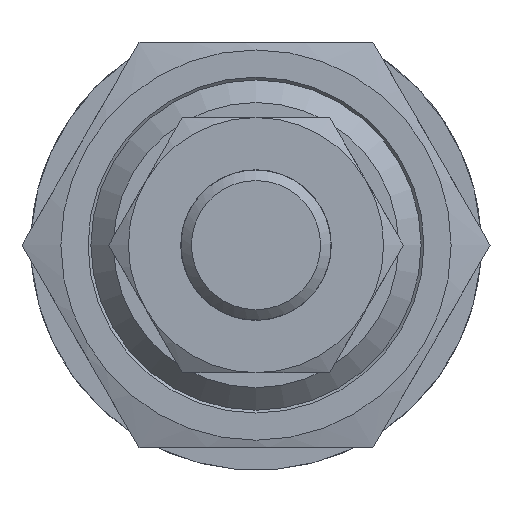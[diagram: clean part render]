
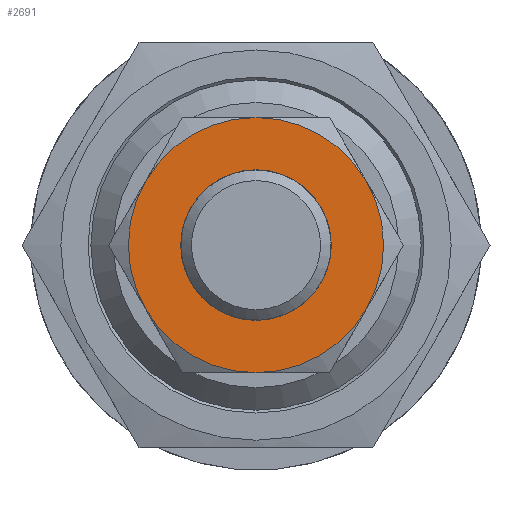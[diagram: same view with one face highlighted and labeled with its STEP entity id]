
A CAD part, front view. The second image highlights one B-rep face of the part: STEP entity #2691.
In plain terms, the highlighted planar face has unit normal (0, -1, 0) as drawn and (1, 0, 0) by its records, which use the part's own axes.
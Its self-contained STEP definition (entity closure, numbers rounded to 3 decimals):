
#454=PLANE('',#4399);
#1058=ORIENTED_EDGE('',*,*,#1420,.T.);
#1059=ORIENTED_EDGE('',*,*,#1418,.T.);
#1060=ORIENTED_EDGE('',*,*,#1415,.T.);
#1061=ORIENTED_EDGE('',*,*,#1414,.T.);
#1062=ORIENTED_EDGE('',*,*,#1416,.T.);
#1063=ORIENTED_EDGE('',*,*,#1417,.T.);
#1064=ORIENTED_EDGE('',*,*,#1419,.T.);
#1414=EDGE_CURVE('',#1665,#1672,#1839,.T.);
#1415=EDGE_CURVE('',#1662,#1665,#1840,.T.);
#1416=EDGE_CURVE('',#1672,#1670,#1841,.T.);
#1417=EDGE_CURVE('',#1670,#1667,#1842,.T.);
#1418=EDGE_CURVE('',#1657,#1662,#1843,.T.);
#1419=EDGE_CURVE('',#1667,#1657,#1844,.T.);
#1420=EDGE_CURVE('',#1673,#1673,#1845,.F.);
#1657=VERTEX_POINT('',#6170);
#1662=VERTEX_POINT('',#6190);
#1665=VERTEX_POINT('',#6207);
#1667=VERTEX_POINT('',#6225);
#1670=VERTEX_POINT('',#6242);
#1672=VERTEX_POINT('',#6258);
#1673=VERTEX_POINT('',#6282);
#1839=CIRCLE('',#4382,8.5);
#1840=CIRCLE('',#4384,8.5);
#1841=CIRCLE('',#4386,8.5);
#1842=CIRCLE('',#4388,8.5);
#1843=CIRCLE('',#4390,8.5);
#1844=CIRCLE('',#4392,8.5);
#1845=CIRCLE('',#4400,5.016);
#2127=EDGE_LOOP('',(#1058));
#2128=EDGE_LOOP('',(#1059,#1060,#1061,#1062,#1063,#1064));
#2430=FACE_BOUND('',#2127,.T.);
#2431=FACE_BOUND('',#2128,.T.);
#2691=ADVANCED_FACE('',(#2430,#2431),#454,.T.);
#4382=AXIS2_PLACEMENT_3D('',#6263,#5146,#5147);
#4384=AXIS2_PLACEMENT_3D('',#6265,#5150,#5151);
#4386=AXIS2_PLACEMENT_3D('',#6267,#5154,#5155);
#4388=AXIS2_PLACEMENT_3D('',#6269,#5158,#5159);
#4390=AXIS2_PLACEMENT_3D('',#6271,#5162,#5163);
#4392=AXIS2_PLACEMENT_3D('',#6273,#5166,#5167);
#4399=AXIS2_PLACEMENT_3D('',#6280,#5180,#5181);
#4400=AXIS2_PLACEMENT_3D('',#6281,#5182,#5183);
#5146=DIRECTION('',(1.,0.,0.));
#5147=DIRECTION('',(0.,1.,0.));
#5150=DIRECTION('',(1.,0.,0.));
#5151=DIRECTION('',(0.,1.,0.));
#5154=DIRECTION('',(1.,0.,0.));
#5155=DIRECTION('',(0.,1.,0.));
#5158=DIRECTION('',(1.,0.,0.));
#5159=DIRECTION('',(0.,1.,0.));
#5162=DIRECTION('',(1.,0.,0.));
#5163=DIRECTION('',(0.,1.,0.));
#5166=DIRECTION('',(1.,0.,0.));
#5167=DIRECTION('',(0.,1.,0.));
#5180=DIRECTION('',(1.,0.,0.));
#5181=DIRECTION('',(0.,0.,-1.));
#5182=DIRECTION('',(1.,0.,0.));
#5183=DIRECTION('',(0.,0.,-1.));
#6170=CARTESIAN_POINT('',(6.,-7.361,-4.25));
#6190=CARTESIAN_POINT('',(6.,0.,-8.5));
#6207=CARTESIAN_POINT('',(6.,7.361,-4.25));
#6225=CARTESIAN_POINT('',(6.,-7.361,4.25));
#6242=CARTESIAN_POINT('',(6.,0.,8.5));
#6258=CARTESIAN_POINT('',(6.,7.361,4.25));
#6263=CARTESIAN_POINT('',(6.,0.,0.));
#6265=CARTESIAN_POINT('',(6.,0.,0.));
#6267=CARTESIAN_POINT('',(6.,0.,0.));
#6269=CARTESIAN_POINT('',(6.,0.,0.));
#6271=CARTESIAN_POINT('',(6.,0.,0.));
#6273=CARTESIAN_POINT('',(6.,0.,0.));
#6280=CARTESIAN_POINT('',(6.,0.,0.));
#6281=CARTESIAN_POINT('',(6.,0.,0.));
#6282=CARTESIAN_POINT('',(6.,0.,-5.016));
